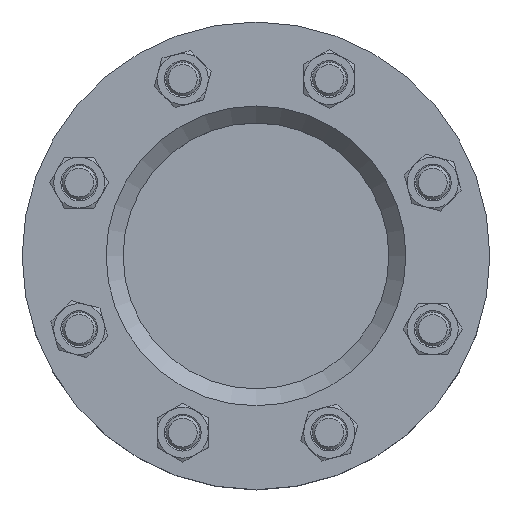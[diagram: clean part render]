
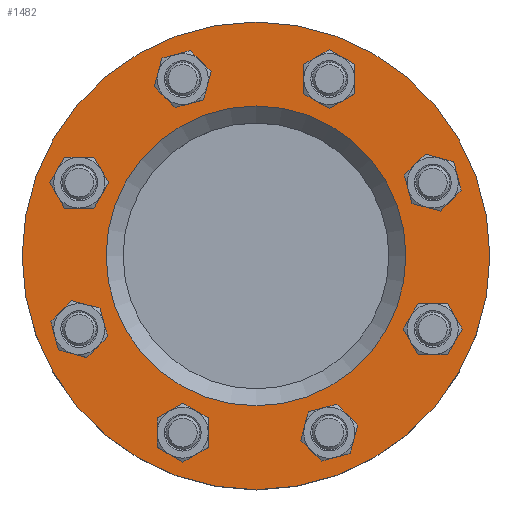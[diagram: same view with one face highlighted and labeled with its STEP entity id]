
A CAD part, top view. The second image highlights one B-rep face of the part: STEP entity #1482.
In plain terms, the highlighted planar face has unit normal (0, 0, 1) as drawn and (0, 0, -1) by its records, which use the part's own axes.
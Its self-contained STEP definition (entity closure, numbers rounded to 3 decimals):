
#178=PLANE('',#1644);
#282=ORIENTED_EDGE('',*,*,#434,.T.);
#283=ORIENTED_EDGE('',*,*,#435,.F.);
#284=ORIENTED_EDGE('',*,*,#436,.F.);
#285=ORIENTED_EDGE('',*,*,#437,.F.);
#286=ORIENTED_EDGE('',*,*,#438,.F.);
#287=ORIENTED_EDGE('',*,*,#439,.F.);
#288=ORIENTED_EDGE('',*,*,#440,.F.);
#289=ORIENTED_EDGE('',*,*,#441,.F.);
#290=ORIENTED_EDGE('',*,*,#442,.F.);
#291=ORIENTED_EDGE('',*,*,#424,.T.);
#424=EDGE_CURVE('',#528,#528,#618,.T.);
#434=EDGE_CURVE('',#538,#538,#628,.F.);
#435=EDGE_CURVE('',#539,#539,#629,.T.);
#436=EDGE_CURVE('',#540,#540,#630,.T.);
#437=EDGE_CURVE('',#541,#541,#631,.T.);
#438=EDGE_CURVE('',#542,#542,#632,.T.);
#439=EDGE_CURVE('',#543,#543,#633,.T.);
#440=EDGE_CURVE('',#544,#544,#634,.T.);
#441=EDGE_CURVE('',#545,#545,#635,.T.);
#442=EDGE_CURVE('',#546,#546,#636,.T.);
#528=VERTEX_POINT('',#2227);
#538=VERTEX_POINT('',#2249);
#539=VERTEX_POINT('',#2251);
#540=VERTEX_POINT('',#2253);
#541=VERTEX_POINT('',#2255);
#542=VERTEX_POINT('',#2257);
#543=VERTEX_POINT('',#2259);
#544=VERTEX_POINT('',#2261);
#545=VERTEX_POINT('',#2263);
#546=VERTEX_POINT('',#2265);
#618=CIRCLE('',#1633,110.);
#628=CIRCLE('',#1645,70.5);
#629=CIRCLE('',#1646,9.);
#630=CIRCLE('',#1647,9.);
#631=CIRCLE('',#1648,9.);
#632=CIRCLE('',#1649,9.);
#633=CIRCLE('',#1650,9.);
#634=CIRCLE('',#1651,9.);
#635=CIRCLE('',#1652,9.);
#636=CIRCLE('',#1653,9.);
#746=EDGE_LOOP('',(#282));
#747=EDGE_LOOP('',(#283));
#748=EDGE_LOOP('',(#284));
#749=EDGE_LOOP('',(#285));
#750=EDGE_LOOP('',(#286));
#751=EDGE_LOOP('',(#287));
#752=EDGE_LOOP('',(#288));
#753=EDGE_LOOP('',(#289));
#754=EDGE_LOOP('',(#290));
#755=EDGE_LOOP('',(#291));
#918=FACE_BOUND('',#746,.T.);
#919=FACE_BOUND('',#747,.T.);
#920=FACE_BOUND('',#748,.T.);
#921=FACE_BOUND('',#749,.T.);
#922=FACE_BOUND('',#750,.T.);
#923=FACE_BOUND('',#751,.T.);
#924=FACE_BOUND('',#752,.T.);
#925=FACE_BOUND('',#753,.T.);
#926=FACE_BOUND('',#754,.T.);
#927=FACE_BOUND('',#755,.T.);
#1482=ADVANCED_FACE('',(#918,#919,#920,#921,#922,#923,#924,#925,#926,#927),
#178,.T.);
#1633=AXIS2_PLACEMENT_3D('',#2226,#1901,#1902);
#1644=AXIS2_PLACEMENT_3D('',#2247,#1923,#1924);
#1645=AXIS2_PLACEMENT_3D('',#2248,#1925,#1926);
#1646=AXIS2_PLACEMENT_3D('',#2250,#1927,#1928);
#1647=AXIS2_PLACEMENT_3D('',#2252,#1929,#1930);
#1648=AXIS2_PLACEMENT_3D('',#2254,#1931,#1932);
#1649=AXIS2_PLACEMENT_3D('',#2256,#1933,#1934);
#1650=AXIS2_PLACEMENT_3D('',#2258,#1935,#1936);
#1651=AXIS2_PLACEMENT_3D('',#2260,#1937,#1938);
#1652=AXIS2_PLACEMENT_3D('',#2262,#1939,#1940);
#1653=AXIS2_PLACEMENT_3D('',#2264,#1941,#1942);
#1901=DIRECTION('',(0.,0.,-1.));
#1902=DIRECTION('',(1.,0.,0.));
#1923=DIRECTION('',(0.,0.,-1.));
#1924=DIRECTION('',(-1.,0.,0.));
#1925=DIRECTION('',(0.,0.,-1.));
#1926=DIRECTION('',(-1.,0.,0.));
#1927=DIRECTION('',(0.,0.,-1.));
#1928=DIRECTION('',(-1.,0.,0.));
#1929=DIRECTION('',(0.,0.,-1.));
#1930=DIRECTION('',(-1.,0.,0.));
#1931=DIRECTION('',(0.,0.,-1.));
#1932=DIRECTION('',(-1.,0.,0.));
#1933=DIRECTION('',(0.,0.,-1.));
#1934=DIRECTION('',(-1.,0.,0.));
#1935=DIRECTION('',(0.,0.,-1.));
#1936=DIRECTION('',(-1.,0.,0.));
#1937=DIRECTION('',(0.,0.,-1.));
#1938=DIRECTION('',(-1.,0.,0.));
#1939=DIRECTION('',(0.,0.,-1.));
#1940=DIRECTION('',(-1.,0.,0.));
#1941=DIRECTION('',(0.,0.,-1.));
#1942=DIRECTION('',(-1.,0.,0.));
#2226=CARTESIAN_POINT('',(0.,0.,0.));
#2227=CARTESIAN_POINT('',(110.,0.,0.));
#2247=CARTESIAN_POINT('',(0.,0.,0.));
#2248=CARTESIAN_POINT('',(0.,0.,0.));
#2249=CARTESIAN_POINT('',(-70.5,0.,0.));
#2250=CARTESIAN_POINT('',(-34.442,83.149,0.));
#2251=CARTESIAN_POINT('',(-43.442,83.149,0.));
#2252=CARTESIAN_POINT('',(34.442,83.149,0.));
#2253=CARTESIAN_POINT('',(25.442,83.149,0.));
#2254=CARTESIAN_POINT('',(83.149,34.442,0.));
#2255=CARTESIAN_POINT('',(74.149,34.442,0.));
#2256=CARTESIAN_POINT('',(83.149,-34.442,0.));
#2257=CARTESIAN_POINT('',(74.149,-34.442,0.));
#2258=CARTESIAN_POINT('',(34.442,-83.149,0.));
#2259=CARTESIAN_POINT('',(25.442,-83.149,0.));
#2260=CARTESIAN_POINT('',(-34.442,-83.149,0.));
#2261=CARTESIAN_POINT('',(-43.442,-83.149,0.));
#2262=CARTESIAN_POINT('',(-83.149,-34.442,0.));
#2263=CARTESIAN_POINT('',(-92.149,-34.442,0.));
#2264=CARTESIAN_POINT('',(-83.149,34.442,0.));
#2265=CARTESIAN_POINT('',(-92.149,34.442,0.));
